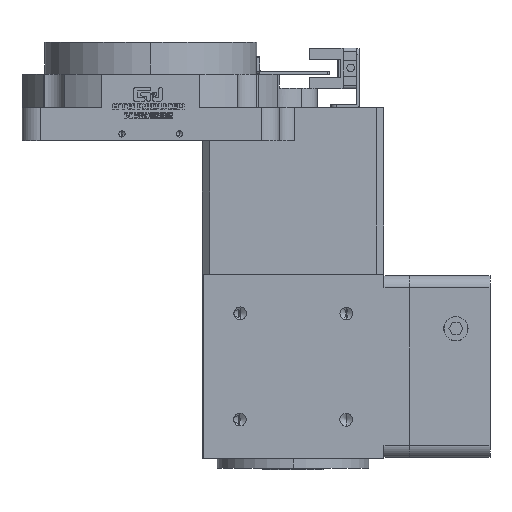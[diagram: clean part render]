
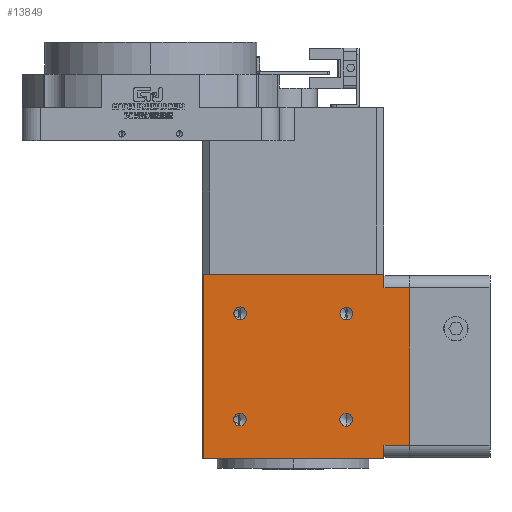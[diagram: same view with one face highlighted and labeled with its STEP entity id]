
A CAD part, left-side view. The second image highlights one B-rep face of the part: STEP entity #13849.
In plain terms, the highlighted planar face has unit normal (-1, 0, 0).
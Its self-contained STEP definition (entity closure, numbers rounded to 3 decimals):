
#137 = CARTESIAN_POINT ( 'NONE',  ( -56.657, -86.45, -38.35 ) ) ;
#237 = CIRCLE ( 'NONE', #34898, 2.1 ) ;
#618 = EDGE_CURVE ( 'NONE', #7327, #18275, #15034, .T. ) ;
#2109 = VERTEX_POINT ( 'NONE', #11495 ) ;
#2307 = FACE_BOUND ( 'NONE', #15498, .T. ) ;
#2645 = ORIENTED_EDGE ( 'NONE', *, *, #7963, .T. ) ;
#2695 = EDGE_CURVE ( 'NONE', #13141, #14698, #27981, .T. ) ;
#3251 = EDGE_LOOP ( 'NONE', ( #26370, #28689 ) ) ;
#3271 = CARTESIAN_POINT ( 'NONE',  ( -56.657, -26.45, -38.35 ) ) ;
#3378 = DIRECTION ( 'NONE',  ( 0., 0., 1. ) ) ;
#3913 = VERTEX_POINT ( 'NONE', #28050 ) ;
#4794 = EDGE_CURVE ( 'NONE', #24022, #27816, #28056, .T. ) ;
#4820 = CARTESIAN_POINT ( 'NONE',  ( -56.657, -38.879, -86.35 ) ) ;
#5073 = CARTESIAN_POINT ( 'NONE',  ( -56.657, -86.45, -42.85 ) ) ;
#5577 = DIRECTION ( 'NONE',  ( 0., 0., 1. ) ) ;
#5922 = DIRECTION ( 'NONE',  ( -1., 0., 0. ) ) ;
#6192 = EDGE_LOOP ( 'NONE', ( #14463, #25485 ) ) ;
#7056 = DIRECTION ( 'NONE',  ( 0., 0., -1. ) ) ;
#7327 = VERTEX_POINT ( 'NONE', #36423 ) ;
#7364 = EDGE_CURVE ( 'NONE', #8526, #26278, #8965, .T. ) ;
#7367 = EDGE_LOOP ( 'NONE', ( #20403, #17624 ) ) ;
#7963 = EDGE_CURVE ( 'NONE', #21403, #3913, #35747, .T. ) ;
#8526 = VERTEX_POINT ( 'NONE', #23498 ) ;
#8537 = DIRECTION ( 'NONE',  ( 1., 0., 0. ) ) ;
#8965 = CIRCLE ( 'NONE', #15154, 2.1 ) ;
#9242 = CARTESIAN_POINT ( 'NONE',  ( -56.657, -26.45, -99.35 ) ) ;
#9297 = CIRCLE ( 'NONE', #26010, 2.1 ) ;
#9657 = ORIENTED_EDGE ( 'NONE', *, *, #22685, .F. ) ;
#9659 = LINE ( 'NONE', #33262, #16773 ) ;
#9761 = CARTESIAN_POINT ( 'NONE',  ( -56.657, -86.45, -38.35 ) ) ;
#9800 = EDGE_CURVE ( 'NONE', #18275, #27816, #24504, .T. ) ;
#9916 = CARTESIAN_POINT ( 'NONE',  ( -56.657, -73.95, -86.421 ) ) ;
#10485 = DIRECTION ( 'NONE',  ( 0., 0., 1. ) ) ;
#10593 = DIRECTION ( 'NONE',  ( 0., 0., 1. ) ) ;
#11255 = FACE_BOUND ( 'NONE', #6192, .T. ) ;
#11408 = CARTESIAN_POINT ( 'NONE',  ( -56.657, -38.95, -51.279 ) ) ;
#11495 = CARTESIAN_POINT ( 'NONE',  ( -56.657, -86.45, -94.85 ) ) ;
#11697 = EDGE_CURVE ( 'NONE', #36009, #17433, #237, .T. ) ;
#11914 = ORIENTED_EDGE ( 'NONE', *, *, #37946, .T. ) ;
#12110 = VECTOR ( 'NONE', #21058, 1000. ) ;
#13141 = VERTEX_POINT ( 'NONE', #22974 ) ;
#13185 = VERTEX_POINT ( 'NONE', #26081 ) ;
#13407 = DIRECTION ( 'NONE',  ( -1., 0., 0. ) ) ;
#13510 = DIRECTION ( 'NONE',  ( -1., 0., 0. ) ) ;
#13593 = DIRECTION ( 'NONE',  ( 0., 0., -1. ) ) ;
#13837 = DIRECTION ( 'NONE',  ( -1., 0., 0. ) ) ;
#13849 = ADVANCED_FACE ( 'NONE', ( #2307, #11255, #23072, #20169, #32319 ), #26166, .F. ) ;
#14463 = ORIENTED_EDGE ( 'NONE', *, *, #19220, .F. ) ;
#14479 = CARTESIAN_POINT ( 'NONE',  ( -56.657, -73.95, -86.421 ) ) ;
#14698 = VERTEX_POINT ( 'NONE', #17369 ) ;
#15034 = LINE ( 'NONE', #18318, #16764 ) ;
#15154 = AXIS2_PLACEMENT_3D ( 'NONE', #9916, #24644, #28099 ) ;
#15498 = EDGE_LOOP ( 'NONE', ( #9657, #17345 ) ) ;
#15916 = CARTESIAN_POINT ( 'NONE',  ( -56.657, -74.02, -51.35 ) ) ;
#16764 = VECTOR ( 'NONE', #24734, 1000. ) ;
#16773 = VECTOR ( 'NONE', #18588, 1000. ) ;
#17184 = VECTOR ( 'NONE', #7056, 1000. ) ;
#17345 = ORIENTED_EDGE ( 'NONE', *, *, #24197, .F. ) ;
#17369 = CARTESIAN_POINT ( 'NONE',  ( -56.657, -74.02, -49.25 ) ) ;
#17433 = VERTEX_POINT ( 'NONE', #23611 ) ;
#17539 = CIRCLE ( 'NONE', #34816, 2.1 ) ;
#17624 = ORIENTED_EDGE ( 'NONE', *, *, #2695, .F. ) ;
#17802 = VECTOR ( 'NONE', #13593, 1000. ) ;
#18138 = CIRCLE ( 'NONE', #24345, 2.1 ) ;
#18275 = VERTEX_POINT ( 'NONE', #137 ) ;
#18318 = CARTESIAN_POINT ( 'NONE',  ( -56.657, -26.45, -38.35 ) ) ;
#18588 = DIRECTION ( 'NONE',  ( 0., 0., -1. ) ) ;
#19220 = EDGE_CURVE ( 'NONE', #26278, #8526, #18138, .T. ) ;
#19247 = EDGE_CURVE ( 'NONE', #14698, #13141, #17539, .T. ) ;
#19279 = AXIS2_PLACEMENT_3D ( 'NONE', #33989, #13510, #10593 ) ;
#19498 = DIRECTION ( 'NONE',  ( 0., -1., 0. ) ) ;
#19834 = EDGE_CURVE ( 'NONE', #24022, #22014, #33582, .T. ) ;
#20169 = FACE_BOUND ( 'NONE', #3251, .T. ) ;
#20403 = ORIENTED_EDGE ( 'NONE', *, *, #19247, .F. ) ;
#20660 = ORIENTED_EDGE ( 'NONE', *, *, #4794, .T. ) ;
#21058 = DIRECTION ( 'NONE',  ( 0., -1., 0. ) ) ;
#21403 = VERTEX_POINT ( 'NONE', #29956 ) ;
#21811 = AXIS2_PLACEMENT_3D ( 'NONE', #3271, #8537, #35418 ) ;
#22014 = VERTEX_POINT ( 'NONE', #29471 ) ;
#22058 = VERTEX_POINT ( 'NONE', #35672 ) ;
#22685 = EDGE_CURVE ( 'NONE', #22058, #13185, #9297, .T. ) ;
#22961 = EDGE_LOOP ( 'NONE', ( #25991, #20660, #32642, #32243, #34456, #2645, #38002, #11914 ) ) ;
#22974 = CARTESIAN_POINT ( 'NONE',  ( -56.657, -74.02, -53.45 ) ) ;
#23016 = CARTESIAN_POINT ( 'NONE',  ( -56.657, -73.95, -84.321 ) ) ;
#23072 = FACE_BOUND ( 'NONE', #7367, .T. ) ;
#23103 = CARTESIAN_POINT ( 'NONE',  ( -56.657, -38.879, -86.35 ) ) ;
#23498 = CARTESIAN_POINT ( 'NONE',  ( -56.657, -73.95, -88.521 ) ) ;
#23611 = CARTESIAN_POINT ( 'NONE',  ( -56.657, -38.95, -49.179 ) ) ;
#23950 = CARTESIAN_POINT ( 'NONE',  ( -56.657, -74.02, -51.35 ) ) ;
#24022 = VERTEX_POINT ( 'NONE', #27295 ) ;
#24197 = EDGE_CURVE ( 'NONE', #13185, #22058, #34588, .T. ) ;
#24318 = VECTOR ( 'NONE', #25077, 1000. ) ;
#24345 = AXIS2_PLACEMENT_3D ( 'NONE', #14479, #5922, #35161 ) ;
#24504 = LINE ( 'NONE', #9761, #24318 ) ;
#24644 = DIRECTION ( 'NONE',  ( -1., 0., 0. ) ) ;
#24734 = DIRECTION ( 'NONE',  ( 0., -1., 0. ) ) ;
#25077 = DIRECTION ( 'NONE',  ( 0., 0., -1. ) ) ;
#25485 = ORIENTED_EDGE ( 'NONE', *, *, #7364, .F. ) ;
#25575 = CARTESIAN_POINT ( 'NONE',  ( -56.657, -86.45, -38.35 ) ) ;
#25727 = DIRECTION ( 'NONE',  ( -1., 0., 0. ) ) ;
#25991 = ORIENTED_EDGE ( 'NONE', *, *, #19834, .F. ) ;
#26010 = AXIS2_PLACEMENT_3D ( 'NONE', #23103, #13837, #37422 ) ;
#26081 = CARTESIAN_POINT ( 'NONE',  ( -56.657, -38.879, -88.45 ) ) ;
#26166 = PLANE ( 'NONE',  #21811 ) ;
#26278 = VERTEX_POINT ( 'NONE', #23016 ) ;
#26370 = ORIENTED_EDGE ( 'NONE', *, *, #29476, .F. ) ;
#27295 = CARTESIAN_POINT ( 'NONE',  ( -56.657, -94.95, -42.85 ) ) ;
#27816 = VERTEX_POINT ( 'NONE', #5073 ) ;
#27981 = CIRCLE ( 'NONE', #32881, 2.1 ) ;
#28050 = CARTESIAN_POINT ( 'NONE',  ( -56.657, -86.45, -99.35 ) ) ;
#28056 = LINE ( 'NONE', #37728, #28439 ) ;
#28086 = LINE ( 'NONE', #25575, #17802 ) ;
#28099 = DIRECTION ( 'NONE',  ( 0., 0., 1. ) ) ;
#28439 = VECTOR ( 'NONE', #28999, 1000. ) ;
#28689 = ORIENTED_EDGE ( 'NONE', *, *, #11697, .F. ) ;
#28841 = DIRECTION ( 'NONE',  ( 0., 0., 1. ) ) ;
#28999 = DIRECTION ( 'NONE',  ( 0., 1., 0. ) ) ;
#29166 = EDGE_CURVE ( 'NONE', #7327, #21403, #9659, .T. ) ;
#29471 = CARTESIAN_POINT ( 'NONE',  ( -56.657, -94.95, -94.85 ) ) ;
#29476 = EDGE_CURVE ( 'NONE', #17433, #36009, #35227, .T. ) ;
#29891 = CARTESIAN_POINT ( 'NONE',  ( -56.657, -38.95, -53.379 ) ) ;
#29956 = CARTESIAN_POINT ( 'NONE',  ( -56.657, -26.95, -99.35 ) ) ;
#30287 = CARTESIAN_POINT ( 'NONE',  ( -56.657, -94.95, -38.35 ) ) ;
#30305 = DIRECTION ( 'NONE',  ( -1., 0., 0. ) ) ;
#30914 = LINE ( 'NONE', #37477, #31399 ) ;
#31399 = VECTOR ( 'NONE', #19498, 1000. ) ;
#31925 = DIRECTION ( 'NONE',  ( -1., 0., 0. ) ) ;
#32243 = ORIENTED_EDGE ( 'NONE', *, *, #618, .F. ) ;
#32319 = FACE_OUTER_BOUND ( 'NONE', #22961, .T. ) ;
#32642 = ORIENTED_EDGE ( 'NONE', *, *, #9800, .F. ) ;
#32881 = AXIS2_PLACEMENT_3D ( 'NONE', #15916, #13407, #10485 ) ;
#33262 = CARTESIAN_POINT ( 'NONE',  ( -56.657, -26.95, -38.35 ) ) ;
#33582 = LINE ( 'NONE', #30287, #17184 ) ;
#33914 = EDGE_CURVE ( 'NONE', #2109, #3913, #28086, .T. ) ;
#33989 = CARTESIAN_POINT ( 'NONE',  ( -56.657, -38.95, -51.279 ) ) ;
#34456 = ORIENTED_EDGE ( 'NONE', *, *, #29166, .T. ) ;
#34492 = AXIS2_PLACEMENT_3D ( 'NONE', #4820, #25727, #5577 ) ;
#34588 = CIRCLE ( 'NONE', #34492, 2.1 ) ;
#34816 = AXIS2_PLACEMENT_3D ( 'NONE', #23950, #30305, #3378 ) ;
#34898 = AXIS2_PLACEMENT_3D ( 'NONE', #11408, #31925, #28841 ) ;
#35161 = DIRECTION ( 'NONE',  ( 0., 0., 1. ) ) ;
#35227 = CIRCLE ( 'NONE', #19279, 2.1 ) ;
#35418 = DIRECTION ( 'NONE',  ( 0., 1., 0. ) ) ;
#35672 = CARTESIAN_POINT ( 'NONE',  ( -56.657, -38.879, -84.25 ) ) ;
#35747 = LINE ( 'NONE', #9242, #12110 ) ;
#36009 = VERTEX_POINT ( 'NONE', #29891 ) ;
#36423 = CARTESIAN_POINT ( 'NONE',  ( -56.657, -26.95, -38.35 ) ) ;
#37422 = DIRECTION ( 'NONE',  ( 0., 0., 1. ) ) ;
#37477 = CARTESIAN_POINT ( 'NONE',  ( -56.657, -26.45, -94.85 ) ) ;
#37728 = CARTESIAN_POINT ( 'NONE',  ( -56.657, -26.45, -42.85 ) ) ;
#37946 = EDGE_CURVE ( 'NONE', #2109, #22014, #30914, .T. ) ;
#38002 = ORIENTED_EDGE ( 'NONE', *, *, #33914, .F. ) ;
